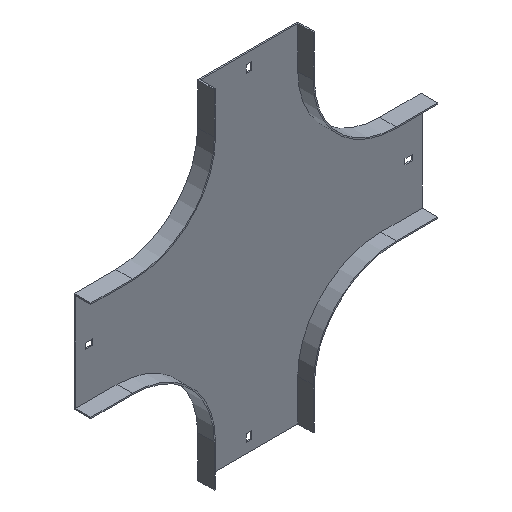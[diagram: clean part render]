
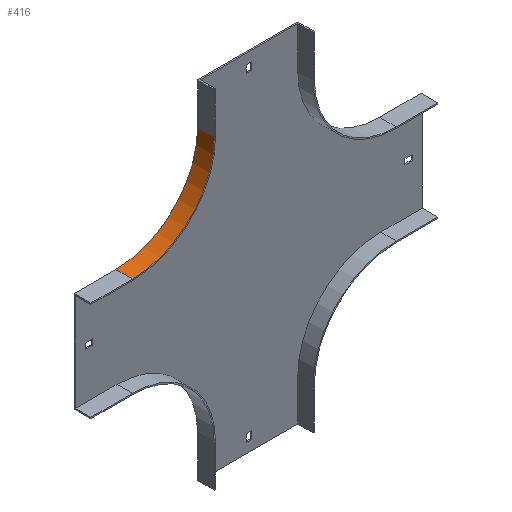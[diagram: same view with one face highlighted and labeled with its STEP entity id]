
A CAD part, isometric view. The second image highlights one B-rep face of the part: STEP entity #416.
In plain terms, the highlighted cylindrical face has radius 98.5 mm (diameter 197 mm), a partial arc.
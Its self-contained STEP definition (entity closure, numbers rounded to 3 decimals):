
#31 = DIRECTION ( 'NONE',  ( 0., 0., 1. ) ) ;
#45 = ORIENTED_EDGE ( 'NONE', *, *, #1318, .F. ) ;
#123 = DIRECTION ( 'NONE',  ( 0., 0., 1. ) ) ;
#135 = VECTOR ( 'NONE', #1173, 1000. ) ;
#161 = CIRCLE ( 'NONE', #269, 98.5 ) ;
#249 = FACE_OUTER_BOUND ( 'NONE', #1295, .T. ) ;
#269 = AXIS2_PLACEMENT_3D ( 'NONE', #960, #972, #1359 ) ;
#277 = LINE ( 'NONE', #784, #291 ) ;
#291 = VECTOR ( 'NONE', #1436, 1000. ) ;
#409 = CARTESIAN_POINT ( 'NONE',  ( -317.5, -20., -98.5 ) ) ;
#416 = ADVANCED_FACE ( 'NONE', ( #249 ), #758, .F. ) ;
#472 = EDGE_CURVE ( 'NONE', #601, #495, #277, .T. ) ;
#495 = VERTEX_POINT ( 'NONE', #904 ) ;
#499 = VERTEX_POINT ( 'NONE', #776 ) ;
#601 = VERTEX_POINT ( 'NONE', #1252 ) ;
#650 = ORIENTED_EDGE ( 'NONE', *, *, #472, .T. ) ;
#732 = ORIENTED_EDGE ( 'NONE', *, *, #1408, .T. ) ;
#742 = AXIS2_PLACEMENT_3D ( 'NONE', #1437, #1196, #31 ) ;
#758 = CYLINDRICAL_SURFACE ( 'NONE', #1587, 98.5 ) ;
#776 = CARTESIAN_POINT ( 'NONE',  ( -317.5, 0., -98.5 ) ) ;
#784 = CARTESIAN_POINT ( 'NONE',  ( -219., -20., 0. ) ) ;
#790 = EDGE_CURVE ( 'NONE', #499, #495, #1505, .T. ) ;
#904 = CARTESIAN_POINT ( 'NONE',  ( -219., 0., 0. ) ) ;
#960 = CARTESIAN_POINT ( 'NONE',  ( -317.5, -20., 0. ) ) ;
#972 = DIRECTION ( 'NONE',  ( 0., -1., 0. ) ) ;
#975 = VERTEX_POINT ( 'NONE', #1304 ) ;
#998 = ORIENTED_EDGE ( 'NONE', *, *, #790, .F. ) ;
#1129 = DIRECTION ( 'NONE',  ( 0., 1., 0. ) ) ;
#1173 = DIRECTION ( 'NONE',  ( 0., 1., 0. ) ) ;
#1180 = LINE ( 'NONE', #409, #135 ) ;
#1196 = DIRECTION ( 'NONE',  ( 0., -1., 0. ) ) ;
#1252 = CARTESIAN_POINT ( 'NONE',  ( -219., -20., 0. ) ) ;
#1295 = EDGE_LOOP ( 'NONE', ( #998, #45, #732, #650 ) ) ;
#1304 = CARTESIAN_POINT ( 'NONE',  ( -317.5, -20., -98.5 ) ) ;
#1318 = EDGE_CURVE ( 'NONE', #975, #499, #1180, .T. ) ;
#1359 = DIRECTION ( 'NONE',  ( 0., 0., 1. ) ) ;
#1408 = EDGE_CURVE ( 'NONE', #975, #601, #161, .T. ) ;
#1436 = DIRECTION ( 'NONE',  ( 0., 1., 0. ) ) ;
#1437 = CARTESIAN_POINT ( 'NONE',  ( -317.5, 0., 0. ) ) ;
#1505 = CIRCLE ( 'NONE', #742, 98.5 ) ;
#1550 = CARTESIAN_POINT ( 'NONE',  ( -317.5, -20., 0. ) ) ;
#1587 = AXIS2_PLACEMENT_3D ( 'NONE', #1550, #1129, #123 ) ;
